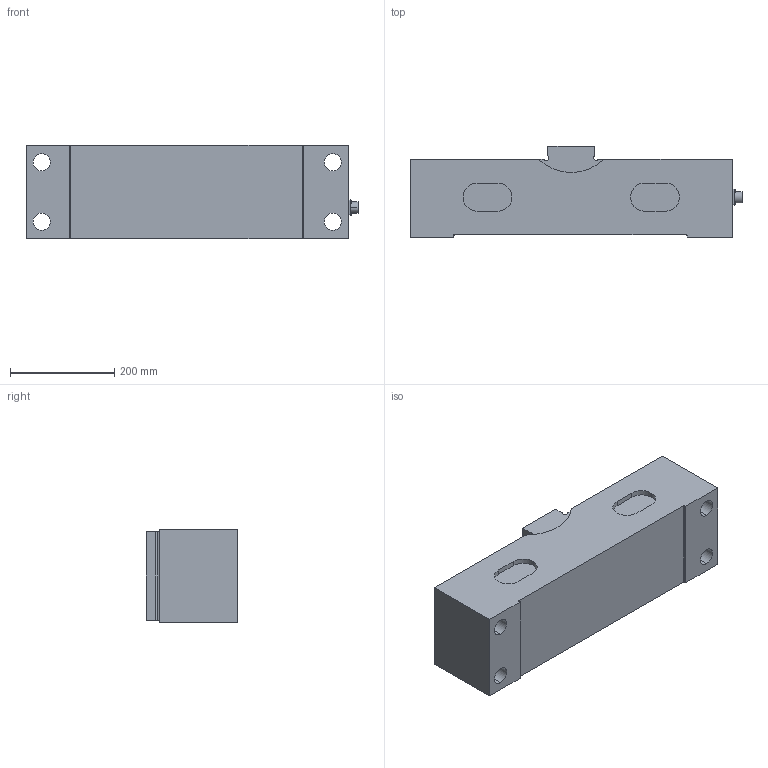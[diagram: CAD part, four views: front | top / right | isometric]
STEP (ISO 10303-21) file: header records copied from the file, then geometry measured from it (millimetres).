
FILE_DESCRIPTION (( 'STEP AP214' ), '1' );
FILE_NAME ('DSA-R 2 MN Load Cell.STEP', '2021-06-17T08:30:35', ( '' ), ( '' ), 'SwSTEP 2.0', 'SolidWorks 2021', '' );
FILE_SCHEMA (( 'AUTOMOTIVE_DESIGN' ));
Length unit declared in the file: millimetre
Products named in the file (4): DSA-R 2 MN; Wiberger-din912_m3x16; Apparatintag 14S-2 6 P, Amphenol ; DSA-R 2 MN Load Cell
Assembly tree (7 placements, depth 2):
  DSA-R 2 MN Load Cell
    DSA-R 2 MN
    Apparatintag 14S-2 6 P, Amphenol   x2
    Wiberger-din912_m3x16  x4
Bounding box: 638.3 x 175 x 180 mm (x, y, z)
Volume: 15689343.7 mm3; surface area: 592738.7 mm2
Topology: 7 solids, 7 shells, 397 faces, 853 edges, 493 vertices
Faces by surface type: cylinder 161, plane 138, cone 66, torus 24, bspline 8
Entity records: 6991 total; most frequent: DIRECTION 1261, CARTESIAN_POINT 1162, ORIENTED_EDGE 1034, EDGE_CURVE 517, AXIS2_PLACEMENT_3D 507, VERTEX_POINT 320, EDGE_LOOP 287, CIRCLE 262
